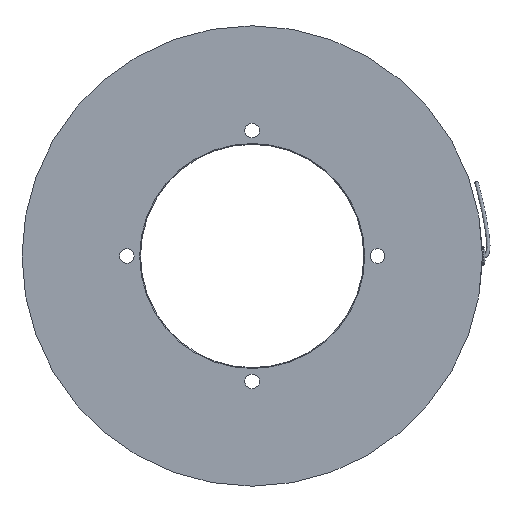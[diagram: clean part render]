
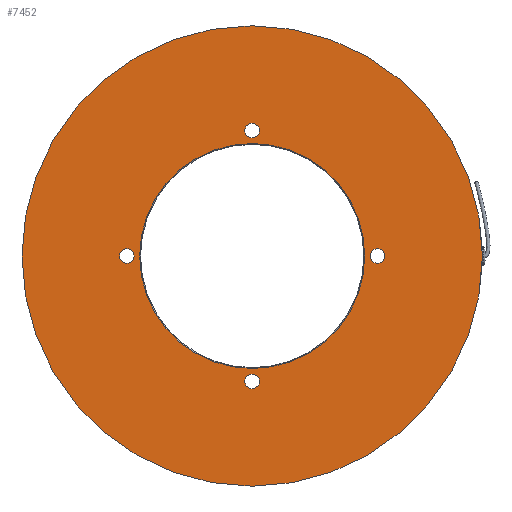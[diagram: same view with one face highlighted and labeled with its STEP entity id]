
A CAD part, left-side view. The second image highlights one B-rep face of the part: STEP entity #7452.
In plain terms, the highlighted planar face has unit normal (-1, 0, 0).
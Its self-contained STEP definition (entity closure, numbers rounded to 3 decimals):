
#144=FACE_BOUND('',#1030,.T.);
#145=FACE_BOUND('',#1031,.T.);
#146=FACE_BOUND('',#1032,.T.);
#147=FACE_BOUND('',#1033,.T.);
#148=FACE_BOUND('',#1034,.T.);
#225=PLANE('',#8598);
#573=FACE_OUTER_BOUND('',#1029,.T.);
#1029=EDGE_LOOP('',(#6307,#6308,#6309));
#1030=EDGE_LOOP('',(#6310,#6311));
#1031=EDGE_LOOP('',(#6312,#6313));
#1032=EDGE_LOOP('',(#6314,#6315));
#1033=EDGE_LOOP('',(#6316,#6317));
#1034=EDGE_LOOP('',(#6318));
#1085=CIRCLE('',#7505,134.);
#1086=CIRCLE('',#7506,134.);
#1842=CIRCLE('',#8599,134.);
#1843=CIRCLE('',#8600,4.25);
#1844=CIRCLE('',#8601,4.25);
#1845=CIRCLE('',#8602,4.25);
#1846=CIRCLE('',#8603,4.25);
#1847=CIRCLE('',#8604,4.25);
#1848=CIRCLE('',#8605,4.25);
#1849=CIRCLE('',#8606,4.25);
#1850=CIRCLE('',#8607,4.25);
#1851=CIRCLE('',#8608,65.5);
#2466=VERTEX_POINT('',#11297);
#2467=VERTEX_POINT('',#11299);
#2468=VERTEX_POINT('',#11301);
#3149=VERTEX_POINT('',#13501);
#3150=VERTEX_POINT('',#13502);
#3151=VERTEX_POINT('',#13505);
#3152=VERTEX_POINT('',#13506);
#3153=VERTEX_POINT('',#13509);
#3154=VERTEX_POINT('',#13510);
#3155=VERTEX_POINT('',#13513);
#3156=VERTEX_POINT('',#13514);
#3157=VERTEX_POINT('',#13517);
#3188=EDGE_CURVE('',#2467,#2466,#1085,.T.);
#3189=EDGE_CURVE('',#2468,#2467,#1086,.T.);
#4227=EDGE_CURVE('',#2466,#2468,#1842,.T.);
#4228=EDGE_CURVE('',#3149,#3150,#1843,.T.);
#4229=EDGE_CURVE('',#3150,#3149,#1844,.T.);
#4230=EDGE_CURVE('',#3151,#3152,#1845,.T.);
#4231=EDGE_CURVE('',#3152,#3151,#1846,.T.);
#4232=EDGE_CURVE('',#3153,#3154,#1847,.T.);
#4233=EDGE_CURVE('',#3154,#3153,#1848,.T.);
#4234=EDGE_CURVE('',#3155,#3156,#1849,.T.);
#4235=EDGE_CURVE('',#3156,#3155,#1850,.T.);
#4236=EDGE_CURVE('',#3157,#3157,#1851,.T.);
#6307=ORIENTED_EDGE('',*,*,#3188,.T.);
#6308=ORIENTED_EDGE('',*,*,#4227,.T.);
#6309=ORIENTED_EDGE('',*,*,#3189,.T.);
#6310=ORIENTED_EDGE('',*,*,#4228,.T.);
#6311=ORIENTED_EDGE('',*,*,#4229,.T.);
#6312=ORIENTED_EDGE('',*,*,#4230,.T.);
#6313=ORIENTED_EDGE('',*,*,#4231,.T.);
#6314=ORIENTED_EDGE('',*,*,#4232,.T.);
#6315=ORIENTED_EDGE('',*,*,#4233,.T.);
#6316=ORIENTED_EDGE('',*,*,#4234,.T.);
#6317=ORIENTED_EDGE('',*,*,#4235,.T.);
#6318=ORIENTED_EDGE('',*,*,#4236,.F.);
#7452=ADVANCED_FACE('',(#573,#144,#145,#146,#147,#148),#225,.T.);
#7505=AXIS2_PLACEMENT_3D('',#11300,#8677,#8678);
#7506=AXIS2_PLACEMENT_3D('',#11302,#8679,#8680);
#8598=AXIS2_PLACEMENT_3D('',#13499,#11134,#11135);
#8599=AXIS2_PLACEMENT_3D('',#13500,#11136,#11137);
#8600=AXIS2_PLACEMENT_3D('',#13503,#11138,#11139);
#8601=AXIS2_PLACEMENT_3D('',#13504,#11140,#11141);
#8602=AXIS2_PLACEMENT_3D('',#13507,#11142,#11143);
#8603=AXIS2_PLACEMENT_3D('',#13508,#11144,#11145);
#8604=AXIS2_PLACEMENT_3D('',#13511,#11146,#11147);
#8605=AXIS2_PLACEMENT_3D('',#13512,#11148,#11149);
#8606=AXIS2_PLACEMENT_3D('',#13515,#11150,#11151);
#8607=AXIS2_PLACEMENT_3D('',#13516,#11152,#11153);
#8608=AXIS2_PLACEMENT_3D('',#13518,#11154,#11155);
#8677=DIRECTION('center_axis',(-1.,0.,0.));
#8678=DIRECTION('ref_axis',(0.,0.,1.));
#8679=DIRECTION('center_axis',(-1.,0.,0.));
#8680=DIRECTION('ref_axis',(0.,0.,1.));
#11134=DIRECTION('center_axis',(-1.,0.,0.));
#11135=DIRECTION('ref_axis',(0.,-1.,0.));
#11136=DIRECTION('center_axis',(-1.,0.,0.));
#11137=DIRECTION('ref_axis',(0.,0.,
1.));
#11138=DIRECTION('center_axis',(1.,0.,0.));
#11139=DIRECTION('ref_axis',(0.,0.,
1.));
#11140=DIRECTION('center_axis',(1.,0.,0.));
#11141=DIRECTION('ref_axis',(0.,0.,
1.));
#11142=DIRECTION('center_axis',(1.,0.,0.));
#11143=DIRECTION('ref_axis',(0.,0.,
1.));
#11144=DIRECTION('center_axis',(1.,0.,0.));
#11145=DIRECTION('ref_axis',(0.,0.,
1.));
#11146=DIRECTION('center_axis',(1.,0.,0.));
#11147=DIRECTION('ref_axis',(0.,0.,
1.));
#11148=DIRECTION('center_axis',(1.,0.,0.));
#11149=DIRECTION('ref_axis',(0.,0.,
1.));
#11150=DIRECTION('center_axis',(1.,0.,0.));
#11151=DIRECTION('ref_axis',(0.,0.,
1.));
#11152=DIRECTION('center_axis',(1.,0.,0.));
#11153=DIRECTION('ref_axis',(0.,0.,
1.));
#11154=DIRECTION('center_axis',(-1.,0.,0.));
#11155=DIRECTION('ref_axis',(0.,0.,
-1.));
#11297=CARTESIAN_POINT('',(-19.8,0.,-134.));
#11299=CARTESIAN_POINT('',(-19.8,0.,134.));
#11300=CARTESIAN_POINT('Origin',(-19.8,0.,0.));
#11301=CARTESIAN_POINT('',(-19.8,-134.,0.));
#11302=CARTESIAN_POINT('Origin',(-19.8,0.,0.));
#13499=CARTESIAN_POINT('Origin',(-19.8,0.,99.5));
#13500=CARTESIAN_POINT('Origin',(-19.8,0.,0.));
#13501=CARTESIAN_POINT('',(-19.8,73.,4.25));
#13502=CARTESIAN_POINT('',(-19.8,73.,-4.25));
#13503=CARTESIAN_POINT('Origin',(-19.8,73.,0.));
#13504=CARTESIAN_POINT('Origin',(-19.8,73.,0.));
#13505=CARTESIAN_POINT('',(-19.8,-73.,4.25));
#13506=CARTESIAN_POINT('',(-19.8,-73.,-4.25));
#13507=CARTESIAN_POINT('Origin',(-19.8,-73.,0.));
#13508=CARTESIAN_POINT('Origin',(-19.8,-73.,0.));
#13509=CARTESIAN_POINT('',(-19.8,0.,77.25));
#13510=CARTESIAN_POINT('',(-19.8,0.,68.75));
#13511=CARTESIAN_POINT('Origin',(-19.8,0.,73.));
#13512=CARTESIAN_POINT('Origin',(-19.8,0.,73.));
#13513=CARTESIAN_POINT('',(-19.8,0.,-68.75));
#13514=CARTESIAN_POINT('',(-19.8,0.,-77.25));
#13515=CARTESIAN_POINT('Origin',(-19.8,0.,-73.));
#13516=CARTESIAN_POINT('Origin',(-19.8,0.,-73.));
#13517=CARTESIAN_POINT('',(-19.8,0.,65.5));
#13518=CARTESIAN_POINT('Origin',(-19.8,0.,0.));
